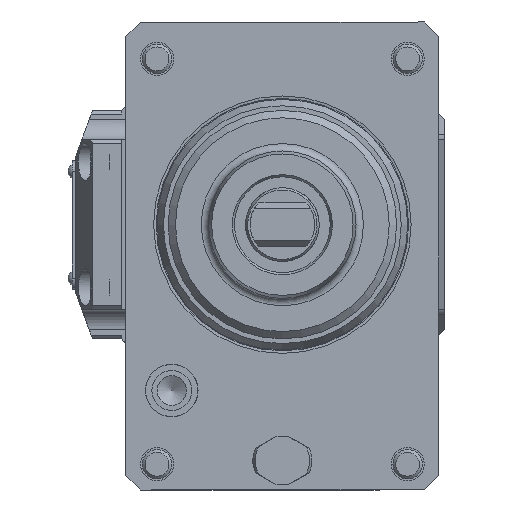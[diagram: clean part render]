
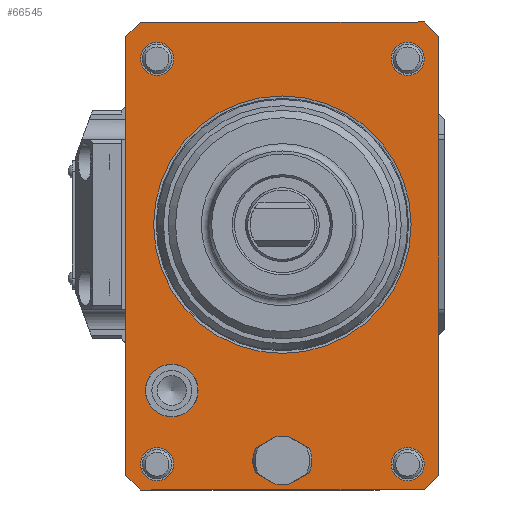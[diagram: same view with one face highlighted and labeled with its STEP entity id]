
A CAD part, left-side view. The second image highlights one B-rep face of the part: STEP entity #66545.
In plain terms, the highlighted planar face has unit normal (-1, 0, 0).
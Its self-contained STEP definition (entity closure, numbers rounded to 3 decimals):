
#28200=CIRCLE('',#64208,4.5);
#28201=CIRCLE('',#64209,7.135);
#28202=CIRCLE('',#64210,34.94);
#28203=CIRCLE('',#64211,4.5);
#28204=CIRCLE('',#64212,4.5);
#28205=CIRCLE('',#64213,4.5);
#28206=CIRCLE('',#64214,8.);
#28207=CIRCLE('',#64215,8.);
#29378=ORIENTED_EDGE('',*,*,#38211,.F.);
#29379=ORIENTED_EDGE('',*,*,#38212,.T.);
#29380=ORIENTED_EDGE('',*,*,#38213,.F.);
#29381=ORIENTED_EDGE('',*,*,#38214,.T.);
#29382=ORIENTED_EDGE('',*,*,#38207,.F.);
#29383=ORIENTED_EDGE('',*,*,#38215,.T.);
#29384=ORIENTED_EDGE('',*,*,#38216,.F.);
#29385=ORIENTED_EDGE('',*,*,#38217,.T.);
#29386=ORIENTED_EDGE('',*,*,#38218,.F.);
#29387=ORIENTED_EDGE('',*,*,#38219,.F.);
#29388=ORIENTED_EDGE('',*,*,#38220,.F.);
#29389=ORIENTED_EDGE('',*,*,#38221,.F.);
#29390=ORIENTED_EDGE('',*,*,#38222,.F.);
#29391=ORIENTED_EDGE('',*,*,#38223,.F.);
#29392=ORIENTED_EDGE('',*,*,#38224,.T.);
#29393=ORIENTED_EDGE('',*,*,#38225,.T.);
#29394=ORIENTED_EDGE('',*,*,#38226,.T.);
#29395=ORIENTED_EDGE('',*,*,#38227,.T.);
#29396=ORIENTED_EDGE('',*,*,#38228,.T.);
#29397=ORIENTED_EDGE('',*,*,#38229,.T.);
#29398=ORIENTED_EDGE('',*,*,#38230,.T.);
#29399=ORIENTED_EDGE('',*,*,#38231,.T.);
#33878=VECTOR('',#43367,1.);
#33882=VECTOR('',#43373,1.);
#33883=VECTOR('',#43374,1.);
#33884=VECTOR('',#43375,1.);
#33885=VECTOR('',#43376,1.);
#33886=VECTOR('',#43377,1.);
#33887=VECTOR('',#43378,1.);
#33888=VECTOR('',#43379,1.);
#33889=VECTOR('',#43392,1.);
#33890=VECTOR('',#43393,1.);
#33891=VECTOR('',#43394,1.);
#33892=VECTOR('',#43397,1.);
#33893=VECTOR('',#43398,1.);
#33894=VECTOR('',#43399,1.);
#35212=LINE('',#50113,#33878);
#35216=LINE('',#50120,#33882);
#35217=LINE('',#50122,#33883);
#35218=LINE('',#50124,#33884);
#35219=LINE('',#50125,#33885);
#35220=LINE('',#50127,#33886);
#35221=LINE('',#50129,#33887);
#35222=LINE('',#50130,#33888);
#35223=LINE('',#50145,#33889);
#35224=LINE('',#50147,#33890);
#35225=LINE('',#50149,#33891);
#35226=LINE('',#50153,#33892);
#35227=LINE('',#50155,#33893);
#35228=LINE('',#50157,#33894);
#36552=VERTEX_POINT('',#50111);
#36553=VERTEX_POINT('',#50112);
#36554=VERTEX_POINT('',#50118);
#36555=VERTEX_POINT('',#50119);
#36556=VERTEX_POINT('',#50121);
#36557=VERTEX_POINT('',#50123);
#36558=VERTEX_POINT('',#50126);
#36559=VERTEX_POINT('',#50128);
#36560=VERTEX_POINT('',#50131);
#36561=VERTEX_POINT('',#50133);
#36562=VERTEX_POINT('',#50135);
#36563=VERTEX_POINT('',#50137);
#36564=VERTEX_POINT('',#50139);
#36565=VERTEX_POINT('',#50141);
#36566=VERTEX_POINT('',#50143);
#36567=VERTEX_POINT('',#50144);
#36568=VERTEX_POINT('',#50146);
#36569=VERTEX_POINT('',#50148);
#36570=VERTEX_POINT('',#50150);
#36571=VERTEX_POINT('',#50152);
#36572=VERTEX_POINT('',#50154);
#36573=VERTEX_POINT('',#50156);
#38207=EDGE_CURVE('',#36552,#36553,#35212,.T.);
#38211=EDGE_CURVE('',#36554,#36555,#35216,.T.);
#38212=EDGE_CURVE('',#36554,#36556,#35217,.T.);
#38213=EDGE_CURVE('',#36557,#36556,#35218,.T.);
#38214=EDGE_CURVE('',#36557,#36553,#35219,.T.);
#38215=EDGE_CURVE('',#36552,#36558,#35220,.T.);
#38216=EDGE_CURVE('',#36559,#36558,#35221,.T.);
#38217=EDGE_CURVE('',#36559,#36555,#35222,.T.);
#38218=EDGE_CURVE('',#36560,#36560,#28200,.T.);
#38219=EDGE_CURVE('',#36561,#36561,#28201,.T.);
#38220=EDGE_CURVE('',#36562,#36562,#28202,.T.);
#38221=EDGE_CURVE('',#36563,#36563,#28203,.T.);
#38222=EDGE_CURVE('',#36564,#36564,#28204,.T.);
#38223=EDGE_CURVE('',#36565,#36565,#28205,.T.);
#38224=EDGE_CURVE('',#36566,#36567,#35223,.T.);
#38225=EDGE_CURVE('',#36567,#36568,#35224,.T.);
#38226=EDGE_CURVE('',#36568,#36569,#35225,.T.);
#38227=EDGE_CURVE('',#36569,#36570,#28206,.T.);
#38228=EDGE_CURVE('',#36570,#36571,#35226,.T.);
#38229=EDGE_CURVE('',#36571,#36572,#35227,.T.);
#38230=EDGE_CURVE('',#36572,#36573,#35228,.T.);
#38231=EDGE_CURVE('',#36573,#36566,#28207,.T.);
#40379=EDGE_LOOP('',(#29378,#29379,#29380,#29381,#29382,#29383,#29384,#29385));
#40380=EDGE_LOOP('',(#29386));
#40381=EDGE_LOOP('',(#29387));
#40382=EDGE_LOOP('',(#29388));
#40383=EDGE_LOOP('',(#29389));
#40384=EDGE_LOOP('',(#29390));
#40385=EDGE_LOOP('',(#29391));
#40386=EDGE_LOOP('',(#29392,#29393,#29394,#29395,#29396,#29397,#29398,#29399));
#41746=FACE_BOUND('',#40379,.T.);
#41747=FACE_BOUND('',#40380,.T.);
#41748=FACE_BOUND('',#40381,.T.);
#41749=FACE_BOUND('',#40382,.T.);
#41750=FACE_BOUND('',#40383,.T.);
#41751=FACE_BOUND('',#40384,.T.);
#41752=FACE_BOUND('',#40385,.T.);
#41753=FACE_BOUND('',#40386,.T.);
#43367=DIRECTION('',(0.,0.,119.));
#43371=DIRECTION('',(-1.,0.,0.));
#43372=DIRECTION('',(0.,1.,0.));
#43373=DIRECTION('',(0.,0.,-119.));
#43374=DIRECTION('',(0.,4.,4.));
#43375=DIRECTION('',(0.,-77.,0.));
#43376=DIRECTION('',(0.,4.,-4.));
#43377=DIRECTION('',(0.,-4.,-4.));
#43378=DIRECTION('',(0.,77.,0.));
#43379=DIRECTION('',(0.,-4.,4.));
#43380=DIRECTION('',(-1.,0.,0.));
#43381=DIRECTION('',(0.,0.,4.5));
#43382=DIRECTION('',(-1.,0.,0.));
#43383=DIRECTION('',(0.,0.,7.135));
#43384=DIRECTION('',(-1.,0.,0.));
#43385=DIRECTION('',(0.,0.,34.94));
#43386=DIRECTION('',(-1.,0.,0.));
#43387=DIRECTION('',(0.,0.,4.5));
#43388=DIRECTION('',(-1.,0.,0.));
#43389=DIRECTION('',(0.,0.,4.5));
#43390=DIRECTION('',(-1.,0.,0.));
#43391=DIRECTION('',(0.,0.,4.5));
#43392=DIRECTION('',(0.,5.556,-3.207));
#43393=DIRECTION('',(0.,3.467,0.));
#43394=DIRECTION('',(0.,5.556,3.207));
#43395=DIRECTION('',(1.,0.,0.));
#43396=DIRECTION('',(0.,0.,-8.));
#43397=DIRECTION('',(0.,-5.539,3.198));
#43398=DIRECTION('',(0.,-3.5,0.));
#43399=DIRECTION('',(0.,-5.539,-3.198));
#43400=DIRECTION('',(1.,0.,0.));
#43401=DIRECTION('',(0.,0.,-8.));
#50111=CARTESIAN_POINT('',(0.,42.5,-68.));
#50112=CARTESIAN_POINT('',(0.,42.5,51.));
#50113=CARTESIAN_POINT('',(0.,42.5,-68.));
#50117=CARTESIAN_POINT('',(0.,-42.5,51.));
#50118=CARTESIAN_POINT('',(0.,-42.5,51.));
#50119=CARTESIAN_POINT('',(0.,-42.5,-68.));
#50120=CARTESIAN_POINT('',(0.,-42.5,51.));
#50121=CARTESIAN_POINT('',(0.,-38.5,55.));
#50122=CARTESIAN_POINT('',(0.,-42.5,51.));
#50123=CARTESIAN_POINT('',(0.,38.5,55.));
#50124=CARTESIAN_POINT('',(0.,38.5,55.));
#50125=CARTESIAN_POINT('',(0.,38.5,55.));
#50126=CARTESIAN_POINT('',(0.,38.5,-72.));
#50127=CARTESIAN_POINT('',(0.,42.5,-68.));
#50128=CARTESIAN_POINT('',(0.,-38.5,-72.));
#50129=CARTESIAN_POINT('',(0.,-38.5,-72.));
#50130=CARTESIAN_POINT('',(0.,-38.5,-72.));
#50131=CARTESIAN_POINT('',(0.,-34.,-60.5));
#50132=CARTESIAN_POINT('',(0.,-34.,-65.));
#50133=CARTESIAN_POINT('',(0.,30.,-37.865));
#50134=CARTESIAN_POINT('',(0.,30.,-45.));
#50135=CARTESIAN_POINT('',(0.,0.,34.94));
#50136=CARTESIAN_POINT('',(0.,0.,0.));
#50137=CARTESIAN_POINT('',(0.,-34.,49.5));
#50138=CARTESIAN_POINT('',(0.,-34.,45.));
#50139=CARTESIAN_POINT('',(0.,34.,-60.5));
#50140=CARTESIAN_POINT('',(0.,34.,-65.));
#50141=CARTESIAN_POINT('',(0.,34.,49.5));
#50142=CARTESIAN_POINT('',(0.,34.,45.));
#50143=CARTESIAN_POINT('',(0.,-7.289,-67.297));
#50144=CARTESIAN_POINT('',(0.,-1.733,-70.505));
#50145=CARTESIAN_POINT('',(0.,-7.289,-67.297));
#50146=CARTESIAN_POINT('',(0.,1.733,-70.505));
#50147=CARTESIAN_POINT('',(0.,-1.733,-70.505));
#50148=CARTESIAN_POINT('',(0.,7.289,-67.297));
#50149=CARTESIAN_POINT('',(0.,1.733,-70.505));
#50150=CARTESIAN_POINT('',(0.,7.289,-60.702));
#50151=CARTESIAN_POINT('',(0.,0.,-64.));
#50152=CARTESIAN_POINT('',(0.,1.75,-57.505));
#50153=CARTESIAN_POINT('',(0.,7.289,-60.702));
#50154=CARTESIAN_POINT('',(0.,-1.75,-57.505));
#50155=CARTESIAN_POINT('',(0.,1.75,-57.505));
#50156=CARTESIAN_POINT('',(0.,-7.289,-60.702));
#50157=CARTESIAN_POINT('',(0.,-1.75,-57.505));
#50158=CARTESIAN_POINT('',(0.,0.,-64.));
#64207=AXIS2_PLACEMENT_3D('',#50117,#43371,#43372);
#64208=AXIS2_PLACEMENT_3D('',#50132,#43380,#43381);
#64209=AXIS2_PLACEMENT_3D('',#50134,#43382,#43383);
#64210=AXIS2_PLACEMENT_3D('',#50136,#43384,#43385);
#64211=AXIS2_PLACEMENT_3D('',#50138,#43386,#43387);
#64212=AXIS2_PLACEMENT_3D('',#50140,#43388,#43389);
#64213=AXIS2_PLACEMENT_3D('',#50142,#43390,#43391);
#64214=AXIS2_PLACEMENT_3D('',#50151,#43395,#43396);
#64215=AXIS2_PLACEMENT_3D('',#50158,#43400,#43401);
#65880=PLANE('',#64207);
#66545=ADVANCED_FACE('',(#41746,#41747,#41748,#41749,#41750,#41751,#41752,
#41753),#65880,.T.);
